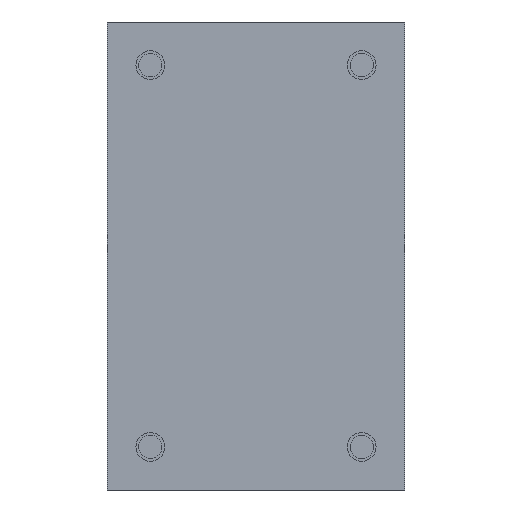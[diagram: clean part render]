
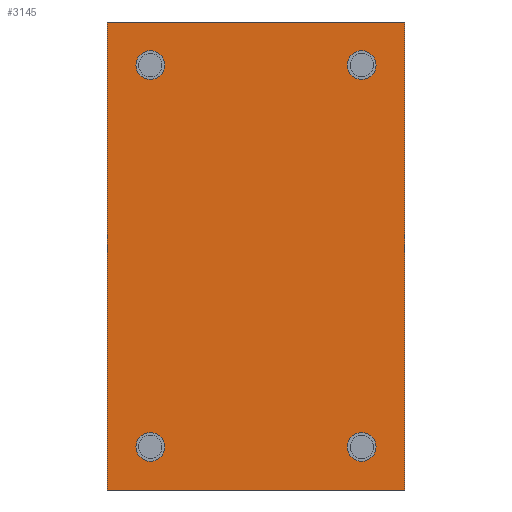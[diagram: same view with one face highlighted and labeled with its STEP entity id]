
A CAD part, front view. The second image highlights one B-rep face of the part: STEP entity #3145.
In plain terms, the highlighted planar face has unit normal (0, -1, 0).
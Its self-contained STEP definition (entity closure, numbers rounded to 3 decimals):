
#619 = CARTESIAN_POINT ( 'NONE',  ( 18.415, 0., -28.956 ) ) ;
#711 = AXIS2_PLACEMENT_3D ( 'NONE', #1313, #9518, #17581 ) ;
#1004 = CARTESIAN_POINT ( 'NONE',  ( 13.081, 0., 21.844 ) ) ;
#1245 = AXIS2_PLACEMENT_3D ( 'NONE', #25421, #19607, #11588 ) ;
#1313 = CARTESIAN_POINT ( 'NONE',  ( 13.081, 0., -23.622 ) ) ;
#1586 = CARTESIAN_POINT ( 'NONE',  ( -13.081, 0., 25.4 ) ) ;
#1704 = LINE ( 'NONE', #25211, #14673 ) ;
#1755 = EDGE_CURVE ( 'NONE', #19719, #7482, #25156, .T. ) ;
#2407 = EDGE_CURVE ( 'NONE', #7482, #19719, #16405, .T. ) ;
#2728 = FACE_BOUND ( 'NONE', #13374, .T. ) ;
#2829 = DIRECTION ( 'NONE',  ( 0., -1., 0. ) ) ;
#2862 = FACE_OUTER_BOUND ( 'NONE', #12589, .T. ) ;
#2988 = DIRECTION ( 'NONE',  ( 0., -1., 0. ) ) ;
#2991 = FACE_BOUND ( 'NONE', #16907, .T. ) ;
#3068 = VERTEX_POINT ( 'NONE', #14032 ) ;
#3145 = ADVANCED_FACE ( 'NONE', ( #4843, #2728, #14567, #2991, #2862 ), #14833, .F. ) ;
#3354 = CIRCLE ( 'NONE', #1245, 1.778 ) ;
#3582 = DIRECTION ( 'NONE',  ( 0., -1., 0. ) ) ;
#3856 = LINE ( 'NONE', #23667, #7870 ) ;
#3928 = CARTESIAN_POINT ( 'NONE',  ( -13.081, 0., -21.844 ) ) ;
#3956 = ORIENTED_EDGE ( 'NONE', *, *, #11866, .F. ) ;
#4464 = DIRECTION ( 'NONE',  ( 0., -1., 0. ) ) ;
#4843 = FACE_BOUND ( 'NONE', #17678, .T. ) ;
#5057 = EDGE_CURVE ( 'NONE', #7586, #7452, #3856, .T. ) ;
#5152 = VERTEX_POINT ( 'NONE', #20627 ) ;
#5161 = ORIENTED_EDGE ( 'NONE', *, *, #14642, .F. ) ;
#5570 = DIRECTION ( 'NONE',  ( 0., 0., -1. ) ) ;
#5831 = CIRCLE ( 'NONE', #22728, 1.778 ) ;
#6315 = CARTESIAN_POINT ( 'NONE',  ( -18.415, 0., -28.956 ) ) ;
#6349 = LINE ( 'NONE', #8330, #15013 ) ;
#6490 = DIRECTION ( 'NONE',  ( 1., 0., 0. ) ) ;
#7441 = EDGE_CURVE ( 'NONE', #5152, #25975, #1704, .T. ) ;
#7452 = VERTEX_POINT ( 'NONE', #6315 ) ;
#7482 = VERTEX_POINT ( 'NONE', #18344 ) ;
#7586 = VERTEX_POINT ( 'NONE', #10565 ) ;
#7813 = DIRECTION ( 'NONE',  ( 0., 0., -1. ) ) ;
#7870 = VECTOR ( 'NONE', #5570, 1000. ) ;
#8015 = DIRECTION ( 'NONE',  ( 0., -1., 0. ) ) ;
#8098 = ORIENTED_EDGE ( 'NONE', *, *, #5057, .T. ) ;
#8140 = ORIENTED_EDGE ( 'NONE', *, *, #20513, .T. ) ;
#8330 = CARTESIAN_POINT ( 'NONE',  ( -18.415, 0., 28.956 ) ) ;
#8632 = CARTESIAN_POINT ( 'NONE',  ( 13.081, 0., 23.622 ) ) ;
#9230 = VECTOR ( 'NONE', #14011, 1000. ) ;
#9518 = DIRECTION ( 'NONE',  ( 0., -1., 0. ) ) ;
#9557 = ORIENTED_EDGE ( 'NONE', *, *, #2407, .F. ) ;
#9873 = LINE ( 'NONE', #15981, #9230 ) ;
#10565 = CARTESIAN_POINT ( 'NONE',  ( -18.415, 0., 28.956 ) ) ;
#10775 = CIRCLE ( 'NONE', #15862, 1.778 ) ;
#10780 = EDGE_CURVE ( 'NONE', #3068, #23198, #21831, .T. ) ;
#10960 = CARTESIAN_POINT ( 'NONE',  ( 13.081, 0., 25.4 ) ) ;
#11170 = ORIENTED_EDGE ( 'NONE', *, *, #22983, .F. ) ;
#11588 = DIRECTION ( 'NONE',  ( 0., 0., -1. ) ) ;
#11794 = ORIENTED_EDGE ( 'NONE', *, *, #19547, .F. ) ;
#11866 = EDGE_CURVE ( 'NONE', #19524, #17485, #3354, .T. ) ;
#12562 = DIRECTION ( 'NONE',  ( 0., 0., -1. ) ) ;
#12589 = EDGE_LOOP ( 'NONE', ( #13695, #16676, #8098, #8140 ) ) ;
#12956 = DIRECTION ( 'NONE',  ( 0., 1., 0. ) ) ;
#12976 = ORIENTED_EDGE ( 'NONE', *, *, #10780, .F. ) ;
#13262 = EDGE_LOOP ( 'NONE', ( #11794, #3956 ) ) ;
#13374 = EDGE_LOOP ( 'NONE', ( #11170, #22883 ) ) ;
#13570 = ORIENTED_EDGE ( 'NONE', *, *, #1755, .F. ) ;
#13695 = ORIENTED_EDGE ( 'NONE', *, *, #7441, .F. ) ;
#13999 = AXIS2_PLACEMENT_3D ( 'NONE', #17731, #3582, #7813 ) ;
#14011 = DIRECTION ( 'NONE',  ( 1., 0., 0. ) ) ;
#14032 = CARTESIAN_POINT ( 'NONE',  ( -13.081, 0., 21.844 ) ) ;
#14567 = FACE_BOUND ( 'NONE', #13262, .T. ) ;
#14642 = EDGE_CURVE ( 'NONE', #23198, #3068, #10775, .T. ) ;
#14673 = VECTOR ( 'NONE', #19277, 1000. ) ;
#14749 = AXIS2_PLACEMENT_3D ( 'NONE', #15989, #20146, #23841 ) ;
#14833 = PLANE ( 'NONE',  #15571 ) ;
#15013 = VECTOR ( 'NONE', #6490, 1000. ) ;
#15571 = AXIS2_PLACEMENT_3D ( 'NONE', #22806, #12956, #18855 ) ;
#15594 = CARTESIAN_POINT ( 'NONE',  ( 13.081, 0., -23.622 ) ) ;
#15862 = AXIS2_PLACEMENT_3D ( 'NONE', #22564, #4464, #12562 ) ;
#15981 = CARTESIAN_POINT ( 'NONE',  ( -18.415, 0., -28.956 ) ) ;
#15989 = CARTESIAN_POINT ( 'NONE',  ( -13.081, 0., 23.622 ) ) ;
#16082 = CARTESIAN_POINT ( 'NONE',  ( -13.081, 0., -25.4 ) ) ;
#16153 = EDGE_CURVE ( 'NONE', #7586, #5152, #6349, .T. ) ;
#16405 = CIRCLE ( 'NONE', #18919, 1.778 ) ;
#16676 = ORIENTED_EDGE ( 'NONE', *, *, #16153, .F. ) ;
#16907 = EDGE_LOOP ( 'NONE', ( #9557, #13570 ) ) ;
#17485 = VERTEX_POINT ( 'NONE', #16082 ) ;
#17581 = DIRECTION ( 'NONE',  ( 0., 0., -1. ) ) ;
#17678 = EDGE_LOOP ( 'NONE', ( #12976, #5161 ) ) ;
#17731 = CARTESIAN_POINT ( 'NONE',  ( 13.081, 0., 23.622 ) ) ;
#18308 = DIRECTION ( 'NONE',  ( 0., 0., -1. ) ) ;
#18344 = CARTESIAN_POINT ( 'NONE',  ( 13.081, 0., -25.4 ) ) ;
#18855 = DIRECTION ( 'NONE',  ( 1., 0., 0. ) ) ;
#18919 = AXIS2_PLACEMENT_3D ( 'NONE', #15594, #2988, #23438 ) ;
#19277 = DIRECTION ( 'NONE',  ( 0., 0., -1. ) ) ;
#19407 = CIRCLE ( 'NONE', #13999, 1.778 ) ;
#19524 = VERTEX_POINT ( 'NONE', #3928 ) ;
#19547 = EDGE_CURVE ( 'NONE', #17485, #19524, #5831, .T. ) ;
#19607 = DIRECTION ( 'NONE',  ( 0., -1., 0. ) ) ;
#19632 = VERTEX_POINT ( 'NONE', #10960 ) ;
#19719 = VERTEX_POINT ( 'NONE', #22912 ) ;
#19770 = EDGE_CURVE ( 'NONE', #19632, #23327, #22682, .T. ) ;
#20146 = DIRECTION ( 'NONE',  ( 0., -1., 0. ) ) ;
#20513 = EDGE_CURVE ( 'NONE', #7452, #25975, #9873, .T. ) ;
#20627 = CARTESIAN_POINT ( 'NONE',  ( 18.415, 0., 28.956 ) ) ;
#21831 = CIRCLE ( 'NONE', #14749, 1.778 ) ;
#22295 = AXIS2_PLACEMENT_3D ( 'NONE', #8632, #2829, #18308 ) ;
#22564 = CARTESIAN_POINT ( 'NONE',  ( -13.081, 0., 23.622 ) ) ;
#22682 = CIRCLE ( 'NONE', #22295, 1.778 ) ;
#22728 = AXIS2_PLACEMENT_3D ( 'NONE', #26116, #8015, #24128 ) ;
#22806 = CARTESIAN_POINT ( 'NONE',  ( -18.415, 0., 28.956 ) ) ;
#22883 = ORIENTED_EDGE ( 'NONE', *, *, #19770, .F. ) ;
#22912 = CARTESIAN_POINT ( 'NONE',  ( 13.081, 0., -21.844 ) ) ;
#22983 = EDGE_CURVE ( 'NONE', #23327, #19632, #19407, .T. ) ;
#23198 = VERTEX_POINT ( 'NONE', #1586 ) ;
#23327 = VERTEX_POINT ( 'NONE', #1004 ) ;
#23438 = DIRECTION ( 'NONE',  ( 0., 0., -1. ) ) ;
#23667 = CARTESIAN_POINT ( 'NONE',  ( -18.415, 0., 28.956 ) ) ;
#23841 = DIRECTION ( 'NONE',  ( 0., 0., -1. ) ) ;
#24128 = DIRECTION ( 'NONE',  ( 0., 0., -1. ) ) ;
#25156 = CIRCLE ( 'NONE', #711, 1.778 ) ;
#25211 = CARTESIAN_POINT ( 'NONE',  ( 18.415, 0., 28.956 ) ) ;
#25421 = CARTESIAN_POINT ( 'NONE',  ( -13.081, 0., -23.622 ) ) ;
#25975 = VERTEX_POINT ( 'NONE', #619 ) ;
#26116 = CARTESIAN_POINT ( 'NONE',  ( -13.081, 0., -23.622 ) ) ;
